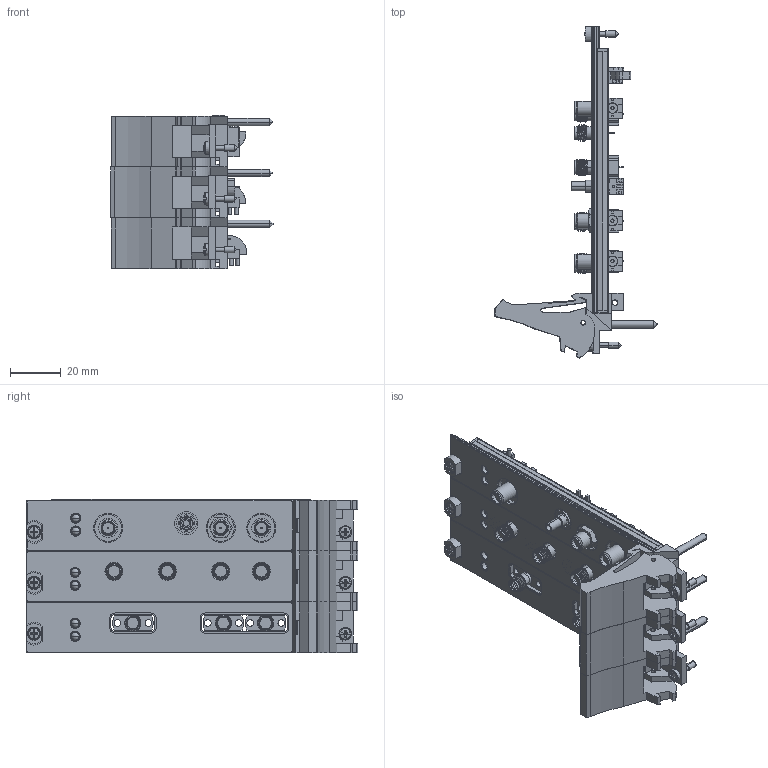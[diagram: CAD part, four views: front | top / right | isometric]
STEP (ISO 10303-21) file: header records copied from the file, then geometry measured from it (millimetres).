
FILE_DESCRIPTION((''),'2;1');
FILE_NAME('CU_PXIE-5663E','2010-01-18T',('jjorden'),(''),'PRO/ENGINEER BY PARAMETRIC TECHNOLOGY CORPORATION, 2006080','PRO/ENGINEER BY PARAMETRIC TECHNOLOGY CORPORATION, 2006080','');
FILE_SCHEMA(('CONFIG_CONTROL_DESIGN'));
Products named in the file (1): CU_PXIE-5663E
Bounding box: 63.78 x 130.5 x 60.34 mm (x, y, z)
Volume: 52365.7 mm3; surface area: 50088.1 mm2
Topology: 11 solids, 16 shells, 2427 faces, 6305 edges, 3977 vertices
Faces by surface type: plane 1152, cylinder 763, cone 193, bspline 147, torus 98, extrusion 50, sphere 24
Entity records: 101405 total; most frequent: CARTESIAN_POINT 42732, ORIENTED_EDGE 12542, DIRECTION 11660, EDGE_CURVE 6271, AXIS2_PLACEMENT_3D 4034, VERTEX_POINT 3977, VECTOR 3592, LINE 3542
